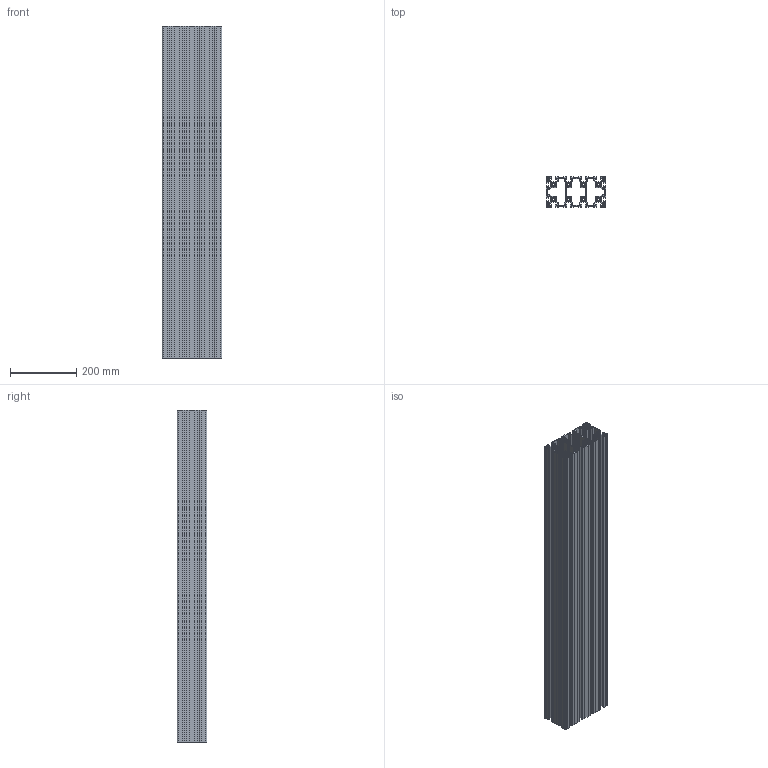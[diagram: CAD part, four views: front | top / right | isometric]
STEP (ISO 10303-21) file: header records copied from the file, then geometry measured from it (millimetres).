
FILE_DESCRIPTION (( 'STEP AP203' ), '1' );
FILE_NAME ('90X180 LÝGHT.STEP', '2015-10-23T15:28:49', ( '' ), ( '' ), 'SwSTEP 2.0', 'SolidWorks 2015', '' );
FILE_SCHEMA (( 'CONFIG_CONTROL_DESIGN' ));
Length unit declared in the file: millimetre
Products named in the file (1): 90X180 LÝGHT
Bounding box: 180 x 90 x 1000 mm (x, y, z)
Volume: 3706748.1 mm3; surface area: 2627776.6 mm2
Topology: 1 solids, 1 shells, 1247 faces, 3735 edges, 2490 vertices
Faces by surface type: plane 672, cylinder 575
Entity records: 42396 total; most frequent: CARTESIAN_POINT 7473, ORIENTED_EDGE 7470, DIRECTION 7381, EDGE_CURVE 3735, VECTOR 2585, LINE 2585, VERTEX_POINT 2490, AXIS2_PLACEMENT_3D 2398
